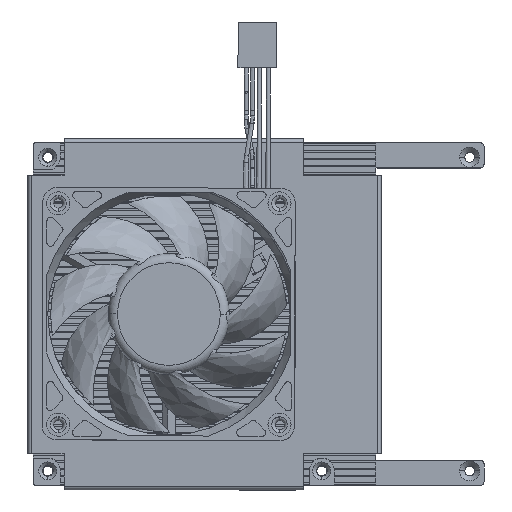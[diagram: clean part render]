
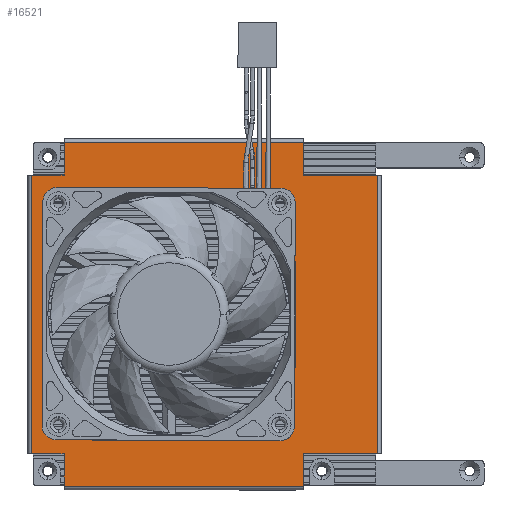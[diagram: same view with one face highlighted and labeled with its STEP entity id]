
A CAD part, top view. The second image highlights one B-rep face of the part: STEP entity #16521.
In plain terms, the highlighted planar face has unit normal (0, 0, 1) as drawn and (0, 1, 0) by its records, which use the part's own axes.
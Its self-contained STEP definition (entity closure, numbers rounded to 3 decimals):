
#14738=DIRECTION('',(0.,0.,-1.));
#14739=VECTOR('',#14738,66.3);
#14740=CARTESIAN_POINT('',(-47.65,0.,29.15));
#14741=LINE('',#14740,#14739);
#14742=CARTESIAN_POINT('',(-30.75,0.,-30.75));
#14743=DIRECTION('',(0.,-1.,0.));
#14744=DIRECTION('',(1.,0.,0.));
#14745=AXIS2_PLACEMENT_3D('',#14742,#14743,#14744);
#14747=CARTESIAN_POINT('',(-30.75,0.,-30.75));
#14748=DIRECTION('',(0.,-1.,0.));
#14749=DIRECTION('',(-1.,0.,0.));
#14750=AXIS2_PLACEMENT_3D('',#14747,#14748,#14749);
#14752=CARTESIAN_POINT('',(30.75,0.,-30.75));
#14753=DIRECTION('',(0.,-1.,0.));
#14754=DIRECTION('',(1.,0.,0.));
#14755=AXIS2_PLACEMENT_3D('',#14752,#14753,#14754);
#14757=CARTESIAN_POINT('',(30.75,0.,-30.75));
#14758=DIRECTION('',(0.,-1.,0.));
#14759=DIRECTION('',(-1.,0.,0.));
#14760=AXIS2_PLACEMENT_3D('',#14757,#14758,#14759);
#14762=CARTESIAN_POINT('',(30.75,0.,30.75));
#14763=DIRECTION('',(0.,-1.,0.));
#14764=DIRECTION('',(1.,0.,0.));
#14765=AXIS2_PLACEMENT_3D('',#14762,#14763,#14764);
#14767=CARTESIAN_POINT('',(30.75,0.,30.75));
#14768=DIRECTION('',(0.,-1.,0.));
#14769=DIRECTION('',(-1.,0.,0.));
#14770=AXIS2_PLACEMENT_3D('',#14767,#14768,#14769);
#14772=CARTESIAN_POINT('',(-30.75,0.,30.75));
#14773=DIRECTION('',(0.,-1.,0.));
#14774=DIRECTION('',(1.,0.,0.));
#14775=AXIS2_PLACEMENT_3D('',#14772,#14773,#14774);
#14777=CARTESIAN_POINT('',(-30.75,0.,30.75));
#14778=DIRECTION('',(0.,-1.,0.));
#14779=DIRECTION('',(-1.,0.,0.));
#14780=AXIS2_PLACEMENT_3D('',#14777,#14778,#14779);
#14782=CARTESIAN_POINT('',(0.,0.,0.));
#14783=DIRECTION('',(0.,-1.,0.));
#14784=DIRECTION('',(-0.389,0.,0.921));
#14785=AXIS2_PLACEMENT_3D('',#14782,#14783,#14784);
#14787=CARTESIAN_POINT('',(0.,0.,0.));
#14788=DIRECTION('',(0.,-1.,0.));
#14789=DIRECTION('',(0.921,0.,0.389));
#14790=AXIS2_PLACEMENT_3D('',#14787,#14788,#14789);
#14792=CARTESIAN_POINT('',(0.,0.,0.));
#14793=DIRECTION('',(0.,-1.,0.));
#14794=DIRECTION('',(0.389,0.,-0.921));
#14795=AXIS2_PLACEMENT_3D('',#14792,#14793,#14794);
#14797=CARTESIAN_POINT('',(0.,0.,0.));
#14798=DIRECTION('',(0.,-1.,0.));
#14799=DIRECTION('',(-0.921,0.,-0.389));
#14800=AXIS2_PLACEMENT_3D('',#14797,#14798,#14799);
#14802=DIRECTION('',(-1.,0.,0.));
#14803=VECTOR('',#14802,77.3);
#14804=CARTESIAN_POINT('',(38.65,0.,-57.85));
#14805=LINE('',#14804,#14803);
#14806=DIRECTION('',(0.,0.,-1.));
#14807=VECTOR('',#14806,20.7);
#14808=CARTESIAN_POINT('',(38.65,0.,-37.15));
#14809=LINE('',#14808,#14807);
#14810=DIRECTION('',(1.,0.,0.));
#14811=VECTOR('',#14810,9.);
#14812=CARTESIAN_POINT('',(38.65,0.,29.15));
#14813=LINE('',#14812,#14811);
#14814=DIRECTION('',(0.,0.,1.));
#14815=VECTOR('',#14814,9.);
#14816=CARTESIAN_POINT('',(-38.65,0.,29.15));
#14817=LINE('',#14816,#14815);
#14818=DIRECTION('',(-1.,0.,0.));
#14819=VECTOR('',#14818,9.);
#14820=CARTESIAN_POINT('',(-38.65,0.,-37.15));
#14821=LINE('',#14820,#14819);
#15023=DIRECTION('',(0.,0.,-1.));
#15024=VECTOR('',#15023,20.7);
#15025=CARTESIAN_POINT('',(-38.65,0.,-37.15));
#15026=LINE('',#15025,#15024);
#15077=DIRECTION('',(1.,0.,0.));
#15078=VECTOR('',#15077,9.);
#15079=CARTESIAN_POINT('',(38.65,0.,-37.15));
#15080=LINE('',#15079,#15078);
#15346=DIRECTION('',(0.,0.,1.));
#15347=VECTOR('',#15346,9.);
#15348=CARTESIAN_POINT('',(38.65,0.,29.15));
#15349=LINE('',#15348,#15347);
#15448=DIRECTION('',(-1.,0.,0.));
#15449=VECTOR('',#15448,9.);
#15450=CARTESIAN_POINT('',(-38.65,0.,29.15));
#15451=LINE('',#15450,#15449);
#15460=DIRECTION('',(-1.,0.,0.));
#15461=VECTOR('',#15460,77.3);
#15462=CARTESIAN_POINT('',(38.65,0.,38.15));
#15463=LINE('',#15462,#15461);
#15468=DIRECTION('',(0.,0.,1.));
#15469=VECTOR('',#15468,66.3);
#15470=CARTESIAN_POINT('',(47.65,0.,-37.15));
#15471=LINE('',#15470,#15469);
#15472=DIRECTION('',(1.,0.,0.));
#15473=VECTOR('',#15472,29.595);
#15474=CARTESIAN_POINT('',(-14.797,0.,35.001));
#15475=LINE('',#15474,#15473);
#15484=DIRECTION('',(0.,0.,-1.));
#15485=VECTOR('',#15484,29.595);
#15486=CARTESIAN_POINT('',(35.001,0.,14.797));
#15487=LINE('',#15486,#15485);
#15496=DIRECTION('',(-1.,0.,0.));
#15497=VECTOR('',#15496,29.6);
#15498=CARTESIAN_POINT('',(14.8,0.,-34.999));
#15499=LINE('',#15498,#15497);
#15508=DIRECTION('',(0.,0.,1.));
#15509=VECTOR('',#15508,29.6);
#15510=CARTESIAN_POINT('',(-34.999,0.,-14.8));
#15511=LINE('',#15510,#15509);
#15724=CARTESIAN_POINT('',(35.001,0.,14.797));
#15725=CARTESIAN_POINT('',(14.797,0.,35.001));
#15726=VERTEX_POINT('',#15724);
#15727=VERTEX_POINT('',#15725);
#15737=CARTESIAN_POINT('',(-33.05,0.,30.75));
#15739=VERTEX_POINT('',#15737);
#15764=CARTESIAN_POINT('',(38.65,0.,38.15));
#15766=VERTEX_POINT('',#15764);
#15772=CARTESIAN_POINT('',(28.45,0.,-30.75));
#15773=CARTESIAN_POINT('',(33.05,0.,-30.75));
#15774=VERTEX_POINT('',#15772);
#15775=VERTEX_POINT('',#15773);
#15777=CARTESIAN_POINT('',(35.001,0.,-14.797));
#15779=VERTEX_POINT('',#15777);
#15780=CARTESIAN_POINT('',(-28.45,0.,30.75));
#15781=VERTEX_POINT('',#15780);
#15782=CARTESIAN_POINT('',(33.05,0.,30.75));
#15783=CARTESIAN_POINT('',(28.45,0.,30.75));
#15784=VERTEX_POINT('',#15782);
#15785=VERTEX_POINT('',#15783);
#15792=CARTESIAN_POINT('',(47.65,0.,29.15));
#15793=VERTEX_POINT('',#15792);
#15806=CARTESIAN_POINT('',(14.8,0.,-34.999));
#15807=VERTEX_POINT('',#15806);
#15809=CARTESIAN_POINT('',(-33.05,0.,-30.75));
#15811=VERTEX_POINT('',#15809);
#15824=CARTESIAN_POINT('',(-14.797,0.,35.001));
#15825=VERTEX_POINT('',#15824);
#15830=CARTESIAN_POINT('',(-38.65,0.,29.15));
#15831=CARTESIAN_POINT('',(-38.65,0.,38.15));
#15832=VERTEX_POINT('',#15830);
#15833=VERTEX_POINT('',#15831);
#15836=CARTESIAN_POINT('',(-14.8,0.,-34.999));
#15837=VERTEX_POINT('',#15836);
#15842=CARTESIAN_POINT('',(-47.65,0.,29.15));
#15843=VERTEX_POINT('',#15842);
#15848=CARTESIAN_POINT('',(38.65,0.,29.15));
#15849=VERTEX_POINT('',#15848);
#15852=CARTESIAN_POINT('',(-28.45,0.,-30.75));
#15853=VERTEX_POINT('',#15852);
#15856=CARTESIAN_POINT('',(-34.999,0.,-14.8));
#15857=CARTESIAN_POINT('',(-34.999,0.,14.8));
#15858=VERTEX_POINT('',#15856);
#15859=VERTEX_POINT('',#15857);
#15908=CARTESIAN_POINT('',(-38.65,0.,-57.85));
#15910=VERTEX_POINT('',#15908);
#15914=CARTESIAN_POINT('',(38.65,0.,-57.85));
#15915=VERTEX_POINT('',#15914);
#16013=CARTESIAN_POINT('',(38.65,0.,-37.15));
#16015=VERTEX_POINT('',#16013);
#16017=CARTESIAN_POINT('',(-38.65,0.,-37.15));
#16019=VERTEX_POINT('',#16017);
#16021=CARTESIAN_POINT('',(-47.65,0.,-37.15));
#16023=VERTEX_POINT('',#16021);
#16026=CARTESIAN_POINT('',(47.65,0.,-37.15));
#16028=VERTEX_POINT('',#16026);
#16450=CARTESIAN_POINT('',(0.,0.,0.));
#16451=DIRECTION('',(0.,1.,0.));
#16452=DIRECTION('',(1.,0.,0.));
#16453=AXIS2_PLACEMENT_3D('',#16450,#16451,#16452);
#16454=PLANE('',#16453);
#16456=ORIENTED_EDGE('',*,*,#16455,.F.);
#16458=ORIENTED_EDGE('',*,*,#16457,.F.);
#16460=ORIENTED_EDGE('',*,*,#16459,.T.);
#16462=ORIENTED_EDGE('',*,*,#16461,.T.);
#16464=ORIENTED_EDGE('',*,*,#16463,.F.);
#16466=ORIENTED_EDGE('',*,*,#16465,.T.);
#16468=ORIENTED_EDGE('',*,*,#16467,.T.);
#16470=ORIENTED_EDGE('',*,*,#16469,.F.);
#16472=ORIENTED_EDGE('',*,*,#16471,.T.);
#16473=ORIENTED_EDGE('',*,*,#16445,.T.);
#16474=ORIENTED_EDGE('',*,*,#16061,.F.);
#16476=ORIENTED_EDGE('',*,*,#16475,.T.);
#16477=EDGE_LOOP('',(#16456,#16458,#16460,#16462,#16464,#16466,#16468,#16470,
#16472,#16473,#16474,#16476));
#16478=FACE_OUTER_BOUND('',#16477,.F.);
#16480=ORIENTED_EDGE('',*,*,#16479,.F.);
#16482=ORIENTED_EDGE('',*,*,#16481,.F.);
#16483=EDGE_LOOP('',(#16480,#16482));
#16484=FACE_BOUND('',#16483,.F.);
#16486=ORIENTED_EDGE('',*,*,#16485,.F.);
#16488=ORIENTED_EDGE('',*,*,#16487,.F.);
#16489=EDGE_LOOP('',(#16486,#16488));
#16490=FACE_BOUND('',#16489,.F.);
#16492=ORIENTED_EDGE('',*,*,#16491,.F.);
#16494=ORIENTED_EDGE('',*,*,#16493,.F.);
#16495=EDGE_LOOP('',(#16492,#16494));
#16496=FACE_BOUND('',#16495,.F.);
#16498=ORIENTED_EDGE('',*,*,#16497,.T.);
#16500=ORIENTED_EDGE('',*,*,#16499,.F.);
#16502=ORIENTED_EDGE('',*,*,#16501,.T.);
#16504=ORIENTED_EDGE('',*,*,#16503,.F.);
#16506=ORIENTED_EDGE('',*,*,#16505,.T.);
#16508=ORIENTED_EDGE('',*,*,#16507,.F.);
#16510=ORIENTED_EDGE('',*,*,#16509,.T.);
#16512=ORIENTED_EDGE('',*,*,#16511,.F.);
#16513=EDGE_LOOP('',(#16498,#16500,#16502,#16504,#16506,#16508,#16510,#16512));
#16514=FACE_BOUND('',#16513,.F.);
#16516=ORIENTED_EDGE('',*,*,#16515,.F.);
#16518=ORIENTED_EDGE('',*,*,#16517,.F.);
#16519=EDGE_LOOP('',(#16516,#16518));
#16520=FACE_BOUND('',#16519,.F.);
#16521=ADVANCED_FACE('',(#16478,#16484,#16490,#16496,#16514,#16520),#16454,.T.);
#14746=CIRCLE('',#14745,2.3);
#14751=CIRCLE('',#14750,2.3);
#14756=CIRCLE('',#14755,2.3);
#14761=CIRCLE('',#14760,2.3);
#14766=CIRCLE('',#14765,2.3);
#14771=CIRCLE('',#14770,2.3);
#14776=CIRCLE('',#14775,2.3);
#14781=CIRCLE('',#14780,2.3);
#14786=CIRCLE('',#14785,38.);
#14791=CIRCLE('',#14790,38.);
#14796=CIRCLE('',#14795,38.);
#14801=CIRCLE('',#14800,38.);
#16061=EDGE_CURVE('',#16019,#16023,#14821,.T.);
#16445=EDGE_CURVE('',#15843,#16023,#14741,.T.);
#16455=EDGE_CURVE('',#15915,#15910,#14805,.T.);
#16457=EDGE_CURVE('',#16015,#15915,#14809,.T.);
#16459=EDGE_CURVE('',#16015,#16028,#15080,.T.);
#16461=EDGE_CURVE('',#16028,#15793,#15471,.T.);
#16463=EDGE_CURVE('',#15849,#15793,#14813,.T.);
#16465=EDGE_CURVE('',#15849,#15766,#15349,.T.);
#16467=EDGE_CURVE('',#15766,#15833,#15463,.T.);
#16469=EDGE_CURVE('',#15832,#15833,#14817,.T.);
#16471=EDGE_CURVE('',#15832,#15843,#15451,.T.);
#16475=EDGE_CURVE('',#16019,#15910,#15026,.T.);
#16479=EDGE_CURVE('',#15775,#15774,#14756,.T.);
#16481=EDGE_CURVE('',#15774,#15775,#14761,.T.);
#16485=EDGE_CURVE('',#15784,#15785,#14766,.T.);
#16487=EDGE_CURVE('',#15785,#15784,#14771,.T.);
#16491=EDGE_CURVE('',#15781,#15739,#14776,.T.);
#16493=EDGE_CURVE('',#15739,#15781,#14781,.T.);
#16497=EDGE_CURVE('',#15858,#15859,#15511,.T.);
#16499=EDGE_CURVE('',#15825,#15859,#14786,.T.);
#16501=EDGE_CURVE('',#15825,#15727,#15475,.T.);
#16503=EDGE_CURVE('',#15726,#15727,#14791,.T.);
#16505=EDGE_CURVE('',#15726,#15779,#15487,.T.);
#16507=EDGE_CURVE('',#15807,#15779,#14796,.T.);
#16509=EDGE_CURVE('',#15807,#15837,#15499,.T.);
#16511=EDGE_CURVE('',#15858,#15837,#14801,.T.);
#16515=EDGE_CURVE('',#15853,#15811,#14746,.T.);
#16517=EDGE_CURVE('',#15811,#15853,#14751,.T.);
